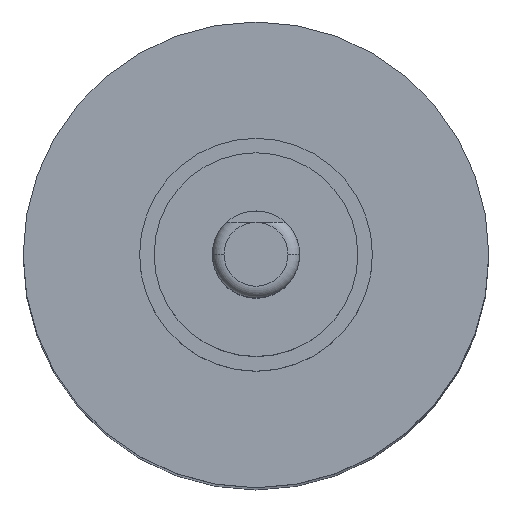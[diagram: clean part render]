
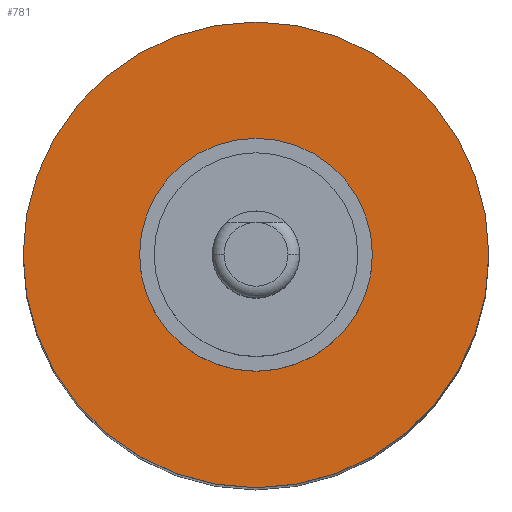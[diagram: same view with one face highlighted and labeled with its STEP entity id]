
A CAD part, top view. The second image highlights one B-rep face of the part: STEP entity #781.
In plain terms, the highlighted planar face has unit normal (0, 0, 1).
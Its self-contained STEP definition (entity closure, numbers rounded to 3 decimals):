
#52 = DIRECTION ( 'NONE',  ( 0., -1., 0. ) ) ;
#97 = DIRECTION ( 'NONE',  ( 0., 0., 1. ) ) ;
#127 = AXIS2_PLACEMENT_3D ( 'NONE', #791, #97, #187 ) ;
#130 = CARTESIAN_POINT ( 'NONE',  ( 0., -4., -6. ) ) ;
#140 = EDGE_CURVE ( 'NONE', #802, #655, #300, .T. ) ;
#154 = AXIS2_PLACEMENT_3D ( 'NONE', #342, #585, #799 ) ;
#187 = DIRECTION ( 'NONE',  ( 0., -1., 0. ) ) ;
#208 = EDGE_CURVE ( 'NONE', #655, #802, #255, .T. ) ;
#214 = EDGE_LOOP ( 'NONE', ( #815, #680 ) ) ;
#241 = PLANE ( 'NONE',  #127 ) ;
#255 = CIRCLE ( 'NONE', #154, 4. ) ;
#300 = CIRCLE ( 'NONE', #887, 4. ) ;
#342 = CARTESIAN_POINT ( 'NONE',  ( 0., 0., -6. ) ) ;
#408 = DIRECTION ( 'NONE',  ( 0., 0., 1. ) ) ;
#567 = CARTESIAN_POINT ( 'NONE',  ( 0., 4., -6. ) ) ;
#585 = DIRECTION ( 'NONE',  ( 0., 0., 1. ) ) ;
#635 = FACE_OUTER_BOUND ( 'NONE', #214, .T. ) ;
#655 = VERTEX_POINT ( 'NONE', #567 ) ;
#680 = ORIENTED_EDGE ( 'NONE', *, *, #208, .T. ) ;
#781 = ADVANCED_FACE ( 'NONE', ( #635 ), #241, .T. ) ;
#791 = CARTESIAN_POINT ( 'NONE',  ( 0., 0., -6. ) ) ;
#799 = DIRECTION ( 'NONE',  ( 0., -1., 0. ) ) ;
#802 = VERTEX_POINT ( 'NONE', #130 ) ;
#815 = ORIENTED_EDGE ( 'NONE', *, *, #140, .T. ) ;
#887 = AXIS2_PLACEMENT_3D ( 'NONE', #951, #408, #52 ) ;
#951 = CARTESIAN_POINT ( 'NONE',  ( 0., 0., -6. ) ) ;
